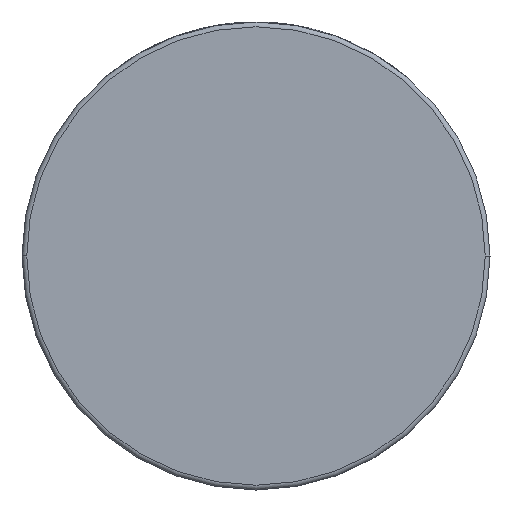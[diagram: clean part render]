
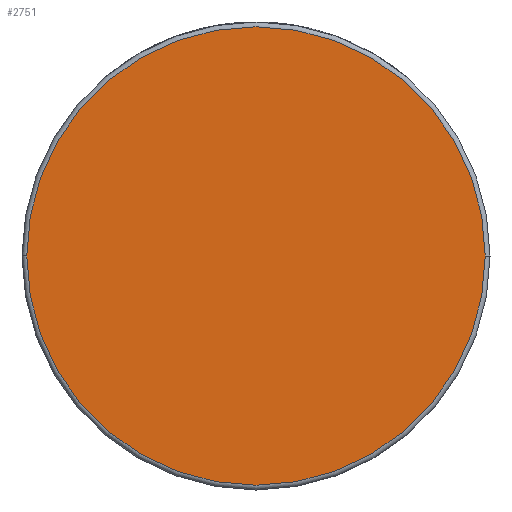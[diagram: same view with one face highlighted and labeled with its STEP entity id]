
A CAD part, front view. The second image highlights one B-rep face of the part: STEP entity #2751.
In plain terms, the highlighted planar face has unit normal (0, -1, 0).
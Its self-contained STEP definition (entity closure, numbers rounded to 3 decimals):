
#148 = ORIENTED_EDGE ( 'NONE', *, *, #1228, .T. ) ;
#243 = DIRECTION ( 'NONE',  ( 1., 0., 0. ) ) ;
#496 = CIRCLE ( 'NONE', #4191, 48. ) ;
#678 = FACE_OUTER_BOUND ( 'NONE', #3963, .T. ) ;
#988 = VERTEX_POINT ( 'NONE', #3348 ) ;
#1032 = DIRECTION ( 'NONE',  ( 0., -1., 0. ) ) ;
#1228 = EDGE_CURVE ( 'NONE', #4092, #988, #496, .T. ) ;
#1405 = DIRECTION ( 'NONE',  ( 1., 0., 0. ) ) ;
#1424 = CARTESIAN_POINT ( 'NONE',  ( -48., -30.5, 0. ) ) ;
#1657 = CARTESIAN_POINT ( 'NONE',  ( 0., -30.5, 0. ) ) ;
#2043 = PLANE ( 'NONE',  #2862 ) ;
#2051 = EDGE_CURVE ( 'NONE', #988, #4092, #3568, .T. ) ;
#2067 = CARTESIAN_POINT ( 'NONE',  ( 49., -30.5, 0. ) ) ;
#2086 = DIRECTION ( 'NONE',  ( 0., -1., 0. ) ) ;
#2707 = CARTESIAN_POINT ( 'NONE',  ( 0., -30.5, 0. ) ) ;
#2731 = DIRECTION ( 'NONE',  ( 1., 0., 0. ) ) ;
#2751 = ADVANCED_FACE ( 'NONE', ( #678 ), #2043, .T. ) ;
#2752 = DIRECTION ( 'NONE',  ( 0., -1., 0. ) ) ;
#2862 = AXIS2_PLACEMENT_3D ( 'NONE', #2067, #2752, #2731 ) ;
#3348 = CARTESIAN_POINT ( 'NONE',  ( 48., -30.5, 0. ) ) ;
#3568 = CIRCLE ( 'NONE', #3855, 48. ) ;
#3594 = ORIENTED_EDGE ( 'NONE', *, *, #2051, .T. ) ;
#3855 = AXIS2_PLACEMENT_3D ( 'NONE', #2707, #2086, #1405 ) ;
#3963 = EDGE_LOOP ( 'NONE', ( #3594, #148 ) ) ;
#4092 = VERTEX_POINT ( 'NONE', #1424 ) ;
#4191 = AXIS2_PLACEMENT_3D ( 'NONE', #1657, #1032, #243 ) ;
